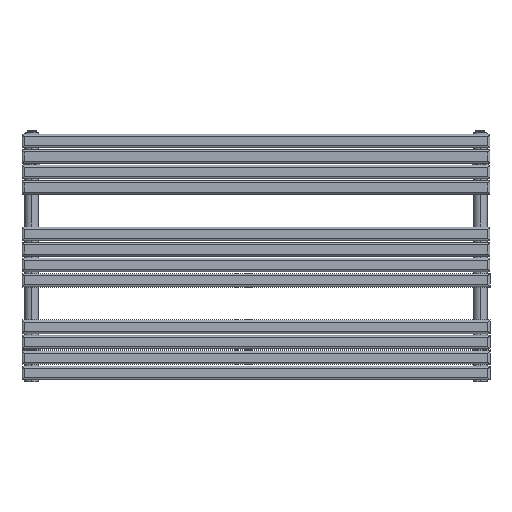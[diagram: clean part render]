
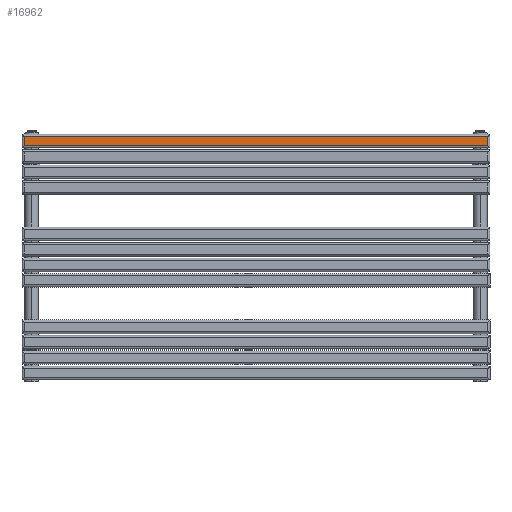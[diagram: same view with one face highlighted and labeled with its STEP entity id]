
A CAD part, top view. The second image highlights one B-rep face of the part: STEP entity #16962.
In plain terms, the highlighted planar face has unit normal (0, 0, 1).
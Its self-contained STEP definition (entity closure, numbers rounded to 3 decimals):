
#259 = ORIENTED_EDGE ( 'NONE', *, *, #25457, .T. ) ;
#670 = VERTEX_POINT ( 'NONE', #22242 ) ;
#2362 = VECTOR ( 'NONE', #11075, 1000. ) ;
#3545 = DIRECTION ( 'NONE',  ( 0., 1., 0. ) ) ;
#4458 = VECTOR ( 'NONE', #3545, 1000. ) ;
#5204 = CARTESIAN_POINT ( 'NONE',  ( -17.5, 19.55, 5.5 ) ) ;
#5540 = LINE ( 'NONE', #14301, #20313 ) ;
#6244 = LINE ( 'NONE', #29269, #2362 ) ;
#6804 = EDGE_CURVE ( 'NONE', #27089, #670, #24291, .T. ) ;
#7702 = ORIENTED_EDGE ( 'NONE', *, *, #26948, .F. ) ;
#8525 = CARTESIAN_POINT ( 'NONE',  ( -12., -1160., 5.5 ) ) ;
#8552 = PLANE ( 'NONE',  #20615 ) ;
#10955 = VECTOR ( 'NONE', #19101, 1000. ) ;
#11075 = DIRECTION ( 'NONE',  ( 1., 0., 0. ) ) ;
#11308 = VERTEX_POINT ( 'NONE', #15674 ) ;
#12438 = LINE ( 'NONE', #5204, #10955 ) ;
#14301 = CARTESIAN_POINT ( 'NONE',  ( 12., -1160., 5.5 ) ) ;
#14954 = EDGE_CURVE ( 'NONE', #27089, #11308, #6244, .T. ) ;
#15064 = FACE_OUTER_BOUND ( 'NONE', #24577, .T. ) ;
#15674 = CARTESIAN_POINT ( 'NONE',  ( 12., -1179.55, 5.5 ) ) ;
#16962 = ADVANCED_FACE ( 'NONE', ( #15064 ), #8552, .T. ) ;
#18376 = CARTESIAN_POINT ( 'NONE',  ( -12., -1160., 5.5 ) ) ;
#18644 = ORIENTED_EDGE ( 'NONE', *, *, #6804, .F. ) ;
#18837 = DIRECTION ( 'NONE',  ( 0., 1., 0. ) ) ;
#19101 = DIRECTION ( 'NONE',  ( 1., 0., 0. ) ) ;
#20313 = VECTOR ( 'NONE', #18837, 1000. ) ;
#20615 = AXIS2_PLACEMENT_3D ( 'NONE', #18376, #27027, #29750 ) ;
#21934 = CARTESIAN_POINT ( 'NONE',  ( 12., 19.55, 5.5 ) ) ;
#22242 = CARTESIAN_POINT ( 'NONE',  ( -12., 19.55, 5.5 ) ) ;
#24291 = LINE ( 'NONE', #8525, #4458 ) ;
#24577 = EDGE_LOOP ( 'NONE', ( #18644, #28687, #259, #7702 ) ) ;
#25457 = EDGE_CURVE ( 'NONE', #11308, #25610, #5540, .T. ) ;
#25610 = VERTEX_POINT ( 'NONE', #21934 ) ;
#26948 = EDGE_CURVE ( 'NONE', #670, #25610, #12438, .T. ) ;
#27027 = DIRECTION ( 'NONE',  ( 0., 0., 1. ) ) ;
#27089 = VERTEX_POINT ( 'NONE', #29831 ) ;
#28687 = ORIENTED_EDGE ( 'NONE', *, *, #14954, .T. ) ;
#29269 = CARTESIAN_POINT ( 'NONE',  ( -17.5, -1179.55, 5.5 ) ) ;
#29750 = DIRECTION ( 'NONE',  ( 1., 0., 0. ) ) ;
#29831 = CARTESIAN_POINT ( 'NONE',  ( -12., -1179.55, 5.5 ) ) ;
